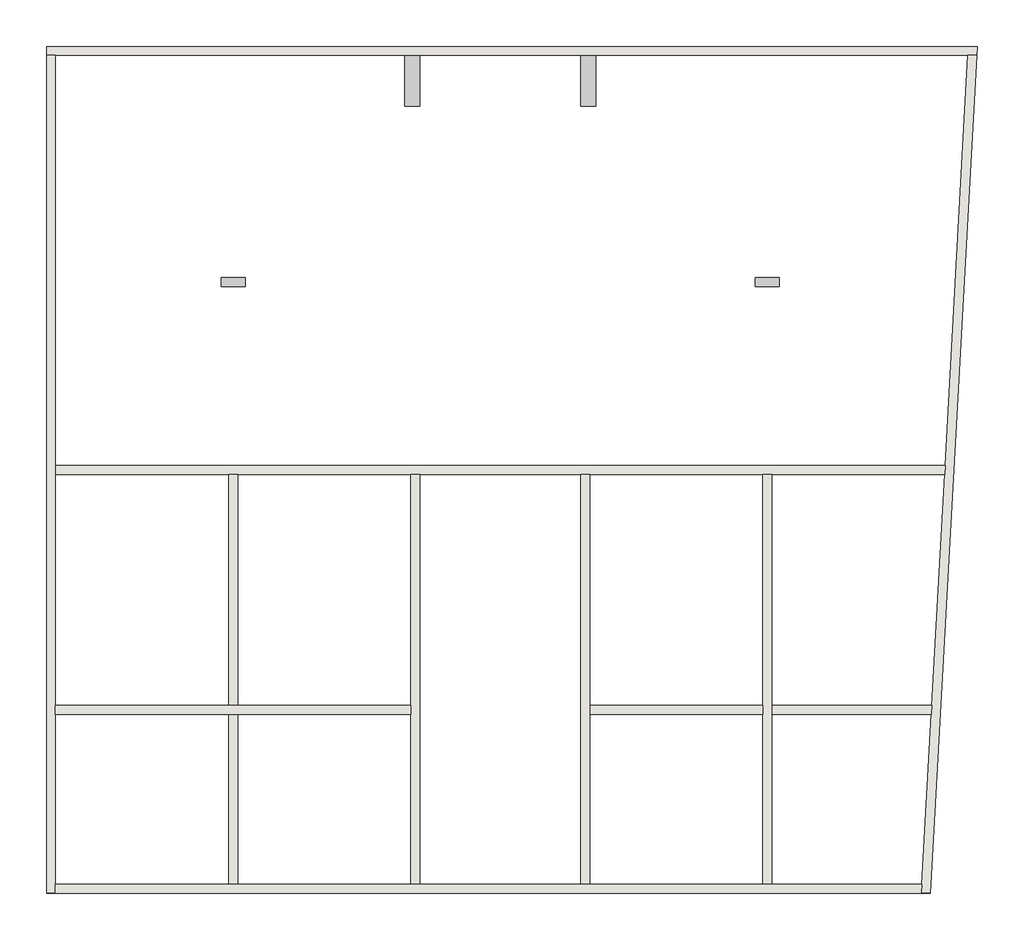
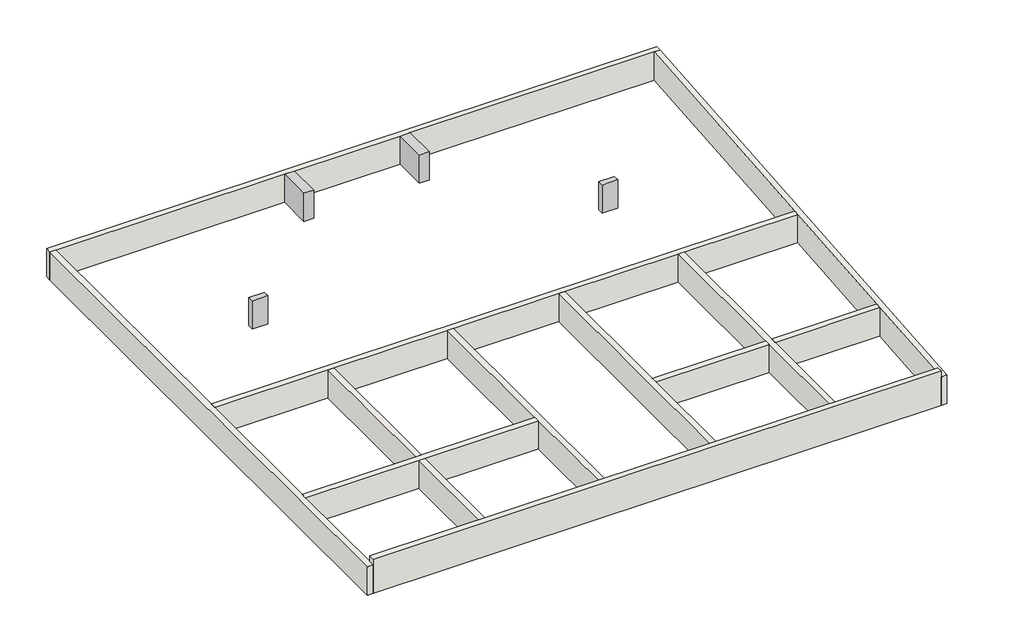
# One storey: 12 walls, 4 columns.
"""IFC4 building model written with IfcOpenShell, lengths in millimetres."""

from ifc_helpers import new_model, si_unit, frame, origin, place, context, project, spatial, polyline, outline, extrude, faceted_brep, element, save

model = new_model("IFC4")

# Units and contexts
model_context = context("Model", 3, world=origin())
ifc_project = project(units=[si_unit("LENGTHUNIT", "METRE", prefix="MILLI")], contexts=[model_context])

# Site, building, storey
site = spatial("IfcSite", under=ifc_project)
building = spatial("IfcBuilding", under=site)
storey = spatial("IfcBuildingStorey", under=building, Name="ARCHI fondations", Elevation=-3545.0)

# Columns
placement = place(None, origin())
element("IfcColumn", 1, ObjectType="Béton - Rectangulaire - Poteau : 25 x 100", at=placement, inside=storey, context=model_context, shape_type="SweptSolid", body=[
    extrude(outline(polyline([(1919.9771325, 5266.7111972), (1669.9771325, 5266.7111972), (1669.9771325, 6116.7111972), (1919.9771325, 6116.7111972), (1919.9771325, 5266.7111972)])), frame((0.0, 0.0, -3545.0), z_axis=(0.0, 0.0, 1.0), x_axis=(1.0, 0.0, 0.0)), (0.0, 0.0, 1.0), 760.0),
])
element("IfcColumn", 2, ObjectType="Béton - Rectangulaire - Poteau : 25 x 100", at=placement, inside=storey, context=model_context, shape_type="SweptSolid", body=[
    extrude(outline(polyline([(-1030.0228675, 5266.8149663), (-1280.0228675, 5266.8149663), (-1280.0228675, 6116.7111972), (-1030.0228675, 6116.7111972), (-1030.0228675, 5266.8149663)])), frame((0.0, 0.0, -3545.0), z_axis=(0.0, 0.0, 1.0), x_axis=(1.0, 0.0, 0.0)), (0.0, 0.0, 1.0), 760.0),
])
element("IfcColumn", 3, ObjectType="Béton - Rectangulaire - Poteau : 40 x 15", at=placement, inside=storey, context=model_context, shape_type="SweptSolid", body=[
    extrude(outline(polyline([(-3950.8374999, 2391.7111972), (-3950.8374999, 2241.7111972), (-4350.8374999, 2241.7111972), (-4350.8374999, 2391.7111972), (-3950.8374999, 2391.7111972)])), frame((0.0, 0.0, -3545.0), z_axis=(0.0, 0.0, 1.0), x_axis=(1.0, 0.0, 0.0)), (0.0, 0.0, 1.0), 760.0),
])
element("IfcColumn", 4, ObjectType="Béton - Rectangulaire - Poteau : 40 x 15", at=placement, inside=storey, context=model_context, shape_type="SweptSolid", body=[
    extrude(outline(polyline([(4995.5726427, 2391.7111972), (4995.5726427, 2241.7111972), (4595.5726427, 2241.7111972), (4595.5726427, 2391.7111972), (4995.5726427, 2391.7111972)])), frame((0.0, 0.0, -3545.0), z_axis=(0.0, 0.0, 1.0), x_axis=(1.0, 0.0, 0.0)), (0.0, 0.0, 1.0), 760.0),
])

# Walls
element("IfcWall", 5, ObjectType="Générique - 150 mm", at=placement, inside=storey, context=model_context, shape_type="Brep", body=[
    faceted_brep([(-7280.0228675, 6116.7111972, -3545.0), (-7130.0228675, 6116.7111972, -3545.0), (-1280.0228675, 6116.7111972, -3545.0), (-1030.0228675, 6116.7111972, -3545.0), (1669.9771325, 6116.7111972, -3545.0), (1919.9771325, 6116.7111972, -3545.0), (8161.4156042, 6116.7111972, -3545.0), (8311.6467221, 6116.7111972, -3545.0), (8311.6467221, 6116.7111972, -2785.0), (8161.4156042, 6116.7111972, -2785.0), (1919.9771325, 6116.7111972, -2785.0), (1669.9771325, 6116.7111972, -2785.0), (-1030.0228675, 6116.7111972, -2785.0), (-1280.0228675, 6116.7111972, -2785.0), (-7130.0228675, 6116.7111972, -2785.0), (-7280.0228675, 6116.7111972, -2785.0), (-7280.0228675, 6266.7111972, -3545.0), (-7280.0228675, 6266.7111972, -2785.0), (8319.9767141, 6266.7111972, -2785.0), (8319.9767141, 6266.7111972, -3545.0)], [[[0, 1, 2, 3, 4, 5, 6, 7, 8, 9, 10, 11, 12, 13, 14, 15]], [[16, 17, 18, 19]], [[7, 6, 5, 4, 3, 2, 1, 0, 16, 19]], [[8, 7, 19, 18]], [[0, 15, 17, 16]], [[15, 14, 13, 12, 11, 10, 9, 8, 18, 17]]]),
])
element("IfcWall", 6, ObjectType="Générique - 150 mm", at=placement, inside=storey, context=model_context, shape_type="Brep", body=[
    faceted_brep([(8161.4156042, 6116.7111972, -3545.0), (7779.6243009, -758.2888028, -3545.0), (7771.2943089, -908.2888028, -3545.0), (7556.102847, -4783.2888028, -3545.0), (7547.772855, -4933.2888028, -3545.0), (7389.5030056, -7783.2888028, -3545.0), (7381.1730135, -7933.2888028, -3545.0), (7381.1730135, -7933.2888028, -2785.0), (7381.2772087, -7931.4125381, -2785.0), (7547.772855, -4933.2888028, -2785.0), (7556.102847, -4783.2888028, -2785.0), (7771.2943089, -908.2888028, -2785.0), (7779.6243009, -758.2888028, -2785.0), (8161.4156042, 6116.7111972, -2785.0), (8311.6467221, 6116.7111972, -3545.0), (8311.6467221, 6116.7111972, -2785.0), (7531.5083278, -7931.4125149, -2785.0), (7531.4041314, -7933.2888028, -2785.0), (7531.4041314, -7933.2888028, -3545.0)], [[[0, 1, 2, 3, 4, 5, 6, 7, 8, 9, 10, 11, 12, 13]], [[14, 15, 16, 17, 18]], [[6, 5, 4, 3, 2, 1, 0, 14, 18]], [[0, 13, 15, 14]], [[7, 6, 18, 17]], [[8, 7, 17, 16]], [[13, 12, 11, 10, 9, 8, 16, 15]]]),
])
element("IfcWall", 7, ObjectType="Générique - 150 mm", at=placement, inside=storey, context=model_context, shape_type="Brep", body=[
    faceted_brep([(7389.5030056, -7783.2888028, -3545.0), (4870.5726427, -7783.2888028, -3545.0), (4720.5726427, -7783.2888028, -3545.0), (1819.9771325, -7783.2888028, -3545.0), (1669.9771325, -7783.2888028, -3545.0), (-1030.0228675, -7783.2888028, -3545.0), (-1180.0228675, -7783.2888028, -3545.0), (-4080.0228675, -7783.2888028, -3545.0), (-4230.0228675, -7783.2888028, -3545.0), (-7130.0228675, -7783.2888028, -3545.0), (-7130.0228675, -7783.2888028, -2625.0), (7389.5030056, -7783.2888028, -2625.0), (7381.1730135, -7933.2888028, -3545.0), (7381.1730135, -7933.2888028, -2785.0), (7381.1730135, -7933.2888028, -2625.0), (-7130.0228675, -7933.2888028, -2625.0), (-7130.0228675, -7933.2888028, -2785.0), (-7130.0228675, -7933.2888028, -3545.0)], [[[0, 1, 2, 3, 4, 5, 6, 7, 8, 9, 10, 11]], [[12, 13, 14, 15, 16, 17]], [[9, 8, 7, 6, 5, 4, 3, 2, 1, 0, 12, 17]], [[11, 10, 15, 14]], [[0, 11, 14, 13, 12]], [[10, 9, 17, 16, 15]]]),
])
element("IfcWall", 8, ObjectType="Générique - 150 mm", at=placement, inside=storey, context=model_context, shape_type="Brep", body=[
    faceted_brep([(-7130.0228675, -7933.2888028, -3545.0), (-7130.0228675, -7783.2888028, -3545.0), (-7130.0228675, -4933.2888028, -3545.0), (-7130.0228675, -4783.2888028, -3545.0), (-7130.0228675, -908.2888028, -3545.0), (-7130.0228675, -758.2888028, -3545.0), (-7130.0228675, 6116.7111972, -3545.0), (-7130.0228675, 6116.7111972, -2785.0), (-7130.0228675, -758.2888028, -2785.0), (-7130.0228675, -908.2888028, -2785.0), (-7130.0228675, -4783.2888028, -2785.0), (-7130.0228675, -4933.2888028, -2785.0), (-7130.0228675, -7931.4125381, -2785.0), (-7130.0228675, -7933.2888028, -2785.0), (-7280.0228675, -7933.2888028, -3545.0), (-7280.0228675, -7933.2888028, -2785.0), (-7280.0228675, -7931.4125381, -2785.0), (-7280.0228675, 6116.7111972, -2785.0), (-7280.0228675, 6116.7111972, -3545.0)], [[[0, 1, 2, 3, 4, 5, 6, 7, 8, 9, 10, 11, 12, 13]], [[14, 15, 16, 17, 18]], [[6, 5, 4, 3, 2, 1, 0, 14, 18]], [[7, 6, 18, 17]], [[0, 13, 15, 14]], [[13, 12, 16, 15]], [[12, 11, 10, 9, 8, 7, 17, 16]]]),
])
element("IfcWall", 9, ObjectType="Générique - 150 mm", at=placement, inside=storey, context=model_context, shape_type="Brep", body=[
    faceted_brep([(-7130.0228675, -908.2888028, -3545.0), (-4230.0228675, -908.2888028, -3545.0), (-4080.0228675, -908.2888028, -3545.0), (-1180.0228675, -908.2888028, -3545.0), (-1030.0228675, -908.2888028, -3545.0), (1669.9771325, -908.2888028, -3545.0), (1819.9771325, -908.2888028, -3545.0), (4720.5726427, -908.2888028, -3545.0), (4870.5726427, -908.2888028, -3545.0), (7771.2943089, -908.2888028, -3545.0), (7771.2943089, -908.2888028, -2785.0), (4870.5726427, -908.2888028, -2785.0), (4720.5726427, -908.2888028, -2785.0), (1819.9771325, -908.2888028, -2785.0), (1669.9771325, -908.2888028, -2785.0), (-1030.0228675, -908.2888028, -2785.0), (-1180.0228675, -908.2888028, -2785.0), (-4080.0228675, -908.2888028, -2785.0), (-4230.0228675, -908.2888028, -2785.0), (-7130.0228675, -908.2888028, -2785.0), (-7130.0228675, -758.2888028, -3545.0), (-7130.0228675, -758.2888028, -2785.0), (7779.6243009, -758.2888028, -2785.0), (7779.6243009, -758.2888028, -3545.0)], [[[0, 1, 2, 3, 4, 5, 6, 7, 8, 9, 10, 11, 12, 13, 14, 15, 16, 17, 18, 19]], [[20, 21, 22, 23]], [[9, 8, 7, 6, 5, 4, 3, 2, 1, 0, 20, 23]], [[10, 9, 23, 22]], [[0, 19, 21, 20]], [[19, 18, 17, 16, 15, 14, 13, 12, 11, 10, 22, 21]]]),
])
element("IfcWall", 10, ObjectType="Générique - 150 mm", at=placement, inside=storey, context=model_context, shape_type="Brep", body=[
    faceted_brep([(-1180.0228675, -908.2888028, -3545.0), (-1180.0228675, -4783.2888028, -3545.0), (-1180.0228675, -4933.2888028, -3545.0), (-1180.0228675, -7783.2888028, -3545.0), (-1180.0228675, -7783.2888028, -2785.0), (-1180.0228675, -4933.2888028, -2785.0), (-1180.0228675, -4783.2888028, -2785.0), (-1180.0228675, -908.2888028, -2785.0), (-1030.0228675, -908.2888028, -3545.0), (-1030.0228675, -908.2888028, -2785.0), (-1030.0228675, -7783.2888028, -2785.0), (-1030.0228675, -7783.2888028, -3545.0)], [[[0, 1, 2, 3, 4, 5, 6, 7]], [[8, 9, 10, 11]], [[3, 2, 1, 0, 8, 11]], [[0, 7, 9, 8]], [[7, 6, 5, 4, 10, 9]], [[4, 3, 11, 10]]]),
])
element("IfcWall", 11, ObjectType="Générique - 150 mm", at=placement, inside=storey, context=model_context, shape_type="Brep", body=[
    faceted_brep([(1819.9771325, -7783.2888028, -3545.0), (1819.9771325, -4933.2888028, -3545.0), (1819.9771325, -4783.2888028, -3545.0), (1819.9771325, -908.2888028, -3545.0), (1819.9771325, -908.2888028, -2785.0), (1819.9771325, -4783.2888028, -2785.0), (1819.9771325, -4933.2888028, -2785.0), (1819.9771325, -7783.2888028, -2785.0), (1669.9771325, -7783.2888028, -3545.0), (1669.9771325, -7783.2888028, -2785.0), (1669.9771325, -908.2888028, -2785.0), (1669.9771325, -908.2888028, -3545.0)], [[[0, 1, 2, 3, 4, 5, 6, 7]], [[8, 9, 10, 11]], [[3, 2, 1, 0, 8, 11]], [[4, 3, 11, 10]], [[7, 6, 5, 4, 10, 9]], [[0, 7, 9, 8]]]),
])
element("IfcWall", 12, ObjectType="Générique - 150 mm", at=placement, inside=storey, context=model_context, shape_type="Brep", body=[
    faceted_brep([(-7130.0228675, -4933.2888028, -3545.0), (-4230.0228675, -4933.2888028, -3545.0), (-4080.0228675, -4933.2888028, -3545.0), (-1180.0228675, -4933.2888028, -3545.0), (-1180.0228675, -4933.2888028, -2785.0), (-4080.0228675, -4933.2888028, -2785.0), (-4230.0228675, -4933.2888028, -2785.0), (-7130.0228675, -4933.2888028, -2785.0), (-7130.0228675, -4783.2888028, -3545.0), (-7130.0228675, -4783.2888028, -2785.0), (-4230.0228675, -4783.2888028, -2785.0), (-4080.0228675, -4783.2888028, -2785.0), (-1180.0228675, -4783.2888028, -2785.0), (-1180.0228675, -4783.2888028, -3545.0), (-4080.0228675, -4783.2888028, -3545.0), (-4230.0228675, -4783.2888028, -3545.0)], [[[0, 1, 2, 3, 4, 5, 6, 7]], [[8, 9, 10, 11, 12, 13, 14, 15]], [[3, 2, 1, 0, 8, 15, 14, 13]], [[0, 7, 9, 8]], [[4, 3, 13, 12]], [[7, 6, 5, 4, 12, 11, 10, 9]]]),
])
element("IfcWall", 13, ObjectType="Générique - 150 mm", at=placement, inside=storey, context=model_context, shape_type="SweptSolid", body=[
    extrude(outline(polyline([(-4230.0228675, -908.2888028), (-4080.0228675, -908.2888028), (-4080.0228675, -4783.2888028), (-4230.0228675, -4783.2888028), (-4230.0228675, -908.2888028)])), frame((0.0, 0.0, -3545.0), z_axis=(0.0, 0.0, 1.0), x_axis=(1.0, 0.0, 0.0)), (0.0, 0.0, 1.0), 760.0),
    extrude(outline(polyline([(-4080.0228675, -7783.2888028), (-4230.0228675, -7783.2888028), (-4230.0228675, -4933.2888028), (-4080.0228675, -4933.2888028), (-4080.0228675, -7783.2888028)])), frame((0.0, 0.0, -3545.0), z_axis=(0.0, 0.0, 1.0), x_axis=(1.0, 0.0, 0.0)), (0.0, 0.0, 1.0), 760.0),
])
element("IfcWall", 14, ObjectType="Générique - 150 mm", at=placement, inside=storey, context=model_context, shape_type="SweptSolid", body=[
    extrude(outline(polyline([(4720.5726427, -4933.2888028), (1819.9771325, -4933.2888028), (1819.9771325, -4783.2888028), (4720.5726427, -4783.2888028), (4720.5726427, -4933.2888028)])), frame((0.0, 0.0, -3545.0), z_axis=(0.0, 0.0, 1.0), x_axis=(1.0, 0.0, 0.0)), (0.0, 0.0, 1.0), 760.0),
])
element("IfcWall", 15, ObjectType="Générique - 150 mm", at=placement, inside=storey, context=model_context, shape_type="SweptSolid", body=[
    extrude(outline(polyline([(7547.772855, -4933.2888028), (4870.5726427, -4933.2888028), (4870.5726427, -4783.2888028), (7556.102847, -4783.2888028), (7547.772855, -4933.2888028)])), frame((0.0, 0.0, -3545.0), z_axis=(0.0, 0.0, 1.0), x_axis=(1.0, 0.0, 0.0)), (0.0, 0.0, 1.0), 760.0),
])
element("IfcWall", 16, ObjectType="Générique - 150 mm", at=placement, inside=storey, context=model_context, shape_type="Brep", body=[
    faceted_brep([(4720.5726427, -908.2888028, -3545.0), (4720.5726427, -4783.2888028, -3545.0), (4720.5726427, -4933.2888028, -3545.0), (4720.5726427, -7783.2888028, -3545.0), (4720.5726427, -7783.2888028, -2785.0), (4720.5726427, -4933.2888028, -2785.0), (4720.5726427, -4783.2888028, -2785.0), (4720.5726427, -908.2888028, -2785.0), (4870.5726427, -908.2888028, -3545.0), (4870.5726427, -908.2888028, -2785.0), (4870.5726427, -4783.2888028, -2785.0), (4870.5726427, -4933.2888028, -2785.0), (4870.5726427, -7783.2888028, -2785.0), (4870.5726427, -7783.2888028, -3545.0), (4870.5726427, -4933.2888028, -3545.0), (4870.5726427, -4783.2888028, -3545.0)], [[[0, 1, 2, 3, 4, 5, 6, 7]], [[8, 9, 10, 11, 12, 13, 14, 15]], [[3, 2, 1, 0, 8, 15, 14, 13]], [[0, 7, 9, 8]], [[7, 6, 5, 4, 12, 11, 10, 9]], [[4, 3, 13, 12]]]),
])

save(model, "model.ifc")
